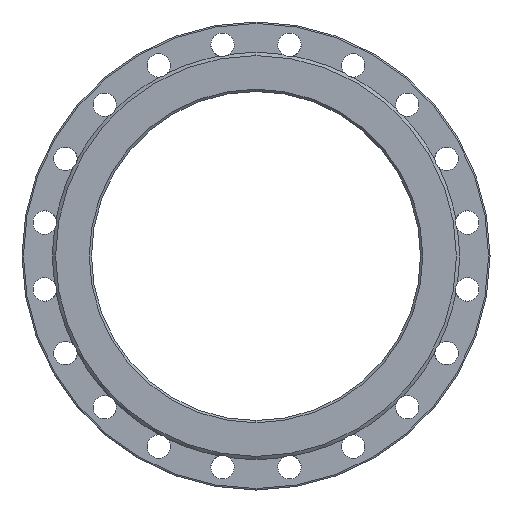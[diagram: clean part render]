
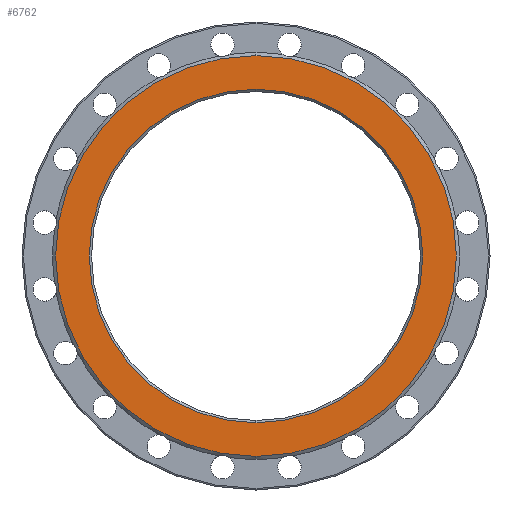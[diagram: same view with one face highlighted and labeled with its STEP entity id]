
A CAD part, left-side view. The second image highlights one B-rep face of the part: STEP entity #6762.
In plain terms, the highlighted planar face has unit normal (-1, 0, 0).
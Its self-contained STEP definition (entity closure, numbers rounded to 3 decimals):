
#265 = DIRECTION ( 'NONE',  ( 0., 0., 1. ) ) ;
#351 = DIRECTION ( 'NONE',  ( 1., 0., 0. ) ) ;
#434 = AXIS2_PLACEMENT_3D ( 'NONE', #1577, #351, #2168 ) ;
#625 = ORIENTED_EDGE ( 'NONE', *, *, #831, .T. ) ;
#656 = DIRECTION ( 'NONE',  ( 1., 0., 0. ) ) ;
#776 = FACE_OUTER_BOUND ( 'NONE', #7640, .T. ) ;
#831 = EDGE_CURVE ( 'Defeatured_0_4+Defeatured_0_0+Defeatured_0_0+Defeatured_0_0', #1933, #2017, #5887, .T. ) ;
#1230 = VERTEX_POINT ( 'NONE', #1799 ) ;
#1378 = EDGE_CURVE ( 'Defeatured_0_4+Defeatured_0_0+Defeatured_0_0+Defeatured_0_0', #2017, #1933, #6513, .T. ) ;
#1395 = ORIENTED_EDGE ( 'NONE', *, *, #5600, .T. ) ;
#1577 = CARTESIAN_POINT ( 'NONE',  ( -350., 0., 0. ) ) ;
#1689 = CIRCLE ( 'NONE', #434, 228. ) ;
#1734 = CARTESIAN_POINT ( 'NONE',  ( -350., 0., -228. ) ) ;
#1799 = CARTESIAN_POINT ( 'NONE',  ( -350., 0., 228. ) ) ;
#1842 = CARTESIAN_POINT ( 'NONE',  ( -350., 225., 0. ) ) ;
#1916 = DIRECTION ( 'NONE',  ( -1., 0., 0. ) ) ;
#1922 = PLANE ( 'NONE',  #3976 ) ;
#1924 = DIRECTION ( 'NONE',  ( -1., 0., 0. ) ) ;
#1933 = VERTEX_POINT ( 'NONE', #5533 ) ;
#2017 = VERTEX_POINT ( 'NONE', #3140 ) ;
#2168 = DIRECTION ( 'NONE',  ( 0., 0., -1. ) ) ;
#2631 = VERTEX_POINT ( 'NONE', #1734 ) ;
#2698 = AXIS2_PLACEMENT_3D ( 'NONE', #3747, #5434, #6137 ) ;
#2928 = EDGE_LOOP ( 'NONE', ( #1395, #3881 ) ) ;
#2977 = ORIENTED_EDGE ( 'NONE', *, *, #1378, .T. ) ;
#3106 = CARTESIAN_POINT ( 'NONE',  ( -350., 0., 0. ) ) ;
#3140 = CARTESIAN_POINT ( 'NONE',  ( -350., 0., -274. ) ) ;
#3156 = DIRECTION ( 'NONE',  ( 0., 0., 1. ) ) ;
#3747 = CARTESIAN_POINT ( 'NONE',  ( -350., 0., 0. ) ) ;
#3881 = ORIENTED_EDGE ( 'NONE', *, *, #4840, .T. ) ;
#3976 = AXIS2_PLACEMENT_3D ( 'NONE', #1842, #656, #5430 ) ;
#4385 = AXIS2_PLACEMENT_3D ( 'NONE', #7264, #1924, #3156 ) ;
#4455 = CIRCLE ( 'NONE', #2698, 228. ) ;
#4840 = EDGE_CURVE ( 'Defeatured_0_4+Defeatured_0_63+Defeatured_0_63+Defeatured_0_63', #2631, #1230, #4455, .T. ) ;
#4881 = FACE_BOUND ( 'NONE', #2928, .T. ) ;
#5430 = DIRECTION ( 'NONE',  ( 0., 0., -1. ) ) ;
#5434 = DIRECTION ( 'NONE',  ( 1., 0., 0. ) ) ;
#5533 = CARTESIAN_POINT ( 'NONE',  ( -350., 0., 274. ) ) ;
#5600 = EDGE_CURVE ( 'Defeatured_0_4+Defeatured_0_63+Defeatured_0_63+Defeatured_0_63', #1230, #2631, #1689, .T. ) ;
#5887 = CIRCLE ( 'NONE', #4385, 274. ) ;
#6137 = DIRECTION ( 'NONE',  ( 0., 0., -1. ) ) ;
#6513 = CIRCLE ( 'NONE', #7260, 274. ) ;
#6762 = ADVANCED_FACE ( 'Defeatured_0_4', ( #4881, #776 ), #1922, .F. ) ;
#7260 = AXIS2_PLACEMENT_3D ( 'NONE', #3106, #1916, #265 ) ;
#7264 = CARTESIAN_POINT ( 'NONE',  ( -350., 0., 0. ) ) ;
#7640 = EDGE_LOOP ( 'NONE', ( #2977, #625 ) ) ;
